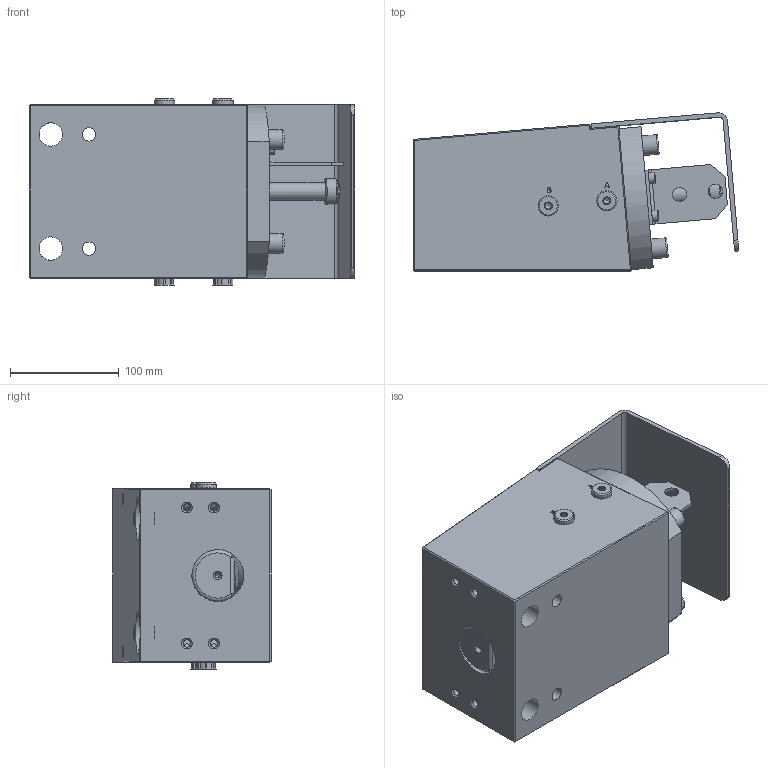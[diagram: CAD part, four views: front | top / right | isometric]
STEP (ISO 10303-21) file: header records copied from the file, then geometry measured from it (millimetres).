
FILE_DESCRIPTION((''),'2;1');
FILE_NAME('\\easAd\Users\breep\Desktop\MOD1010-400-RH-200-P-550(M20).stp','2012-07-11T08:25:28',('breep'),(''),'Autodesk Inventor 2011','Autodesk Inventor 2011','');
FILE_SCHEMA(('AUTOMOTIVE_DESIGN { 1 0 10303 214 1 1 1 1 }'));
Length unit declared in the file: millimetre
Products named in the file (1): Part6
Bounding box: 299.46 x 145.46 x 171.1 mm (x, y, z)
Volume: 4177243.2 mm3; surface area: 417057.6 mm2
Topology: 1 solids, 22 shells, 637 faces, 1548 edges, 985 vertices
Faces by surface type: plane 292, cylinder 168, cone 100, bspline 40, torus 33, sphere 4
Full cylindrical faces by diameter (mm): 3.242 x1, 4 x7, 4.134 x2, 4.917 x6, 5 x2, 6 x9, 6.3 x1, 6.647 x4, 7 x3, 9 x2, 10 x2, 10.106 x4, 10.8 x2, 11.2 x2, 11.43 x6, 11.6 x2, 12 x4, 12.1 x2, 13 x8, 14.376 x1, 16 x3, 16.03 x1, 16.1 x1, 16.25 x1, 16.4 x3, 16.8 x3, 18 x5, 18.8 x2, 19.6 x1, 21.5 x2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
Entity records: 18106 total; most frequent: CARTESIAN_POINT 4445, DIRECTION 2658, ORIENTED_EDGE 2336, EDGE_CURVE 1168, AXIS2_PLACEMENT_3D 1068, EDGE_LOOP 971, VERTEX_POINT 855, FACE_OUTER_BOUND 637
